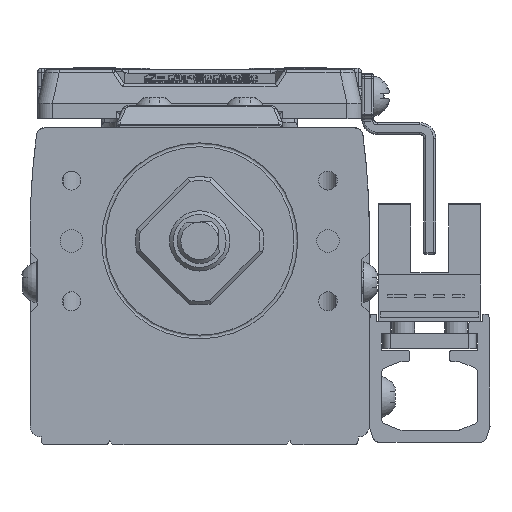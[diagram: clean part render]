
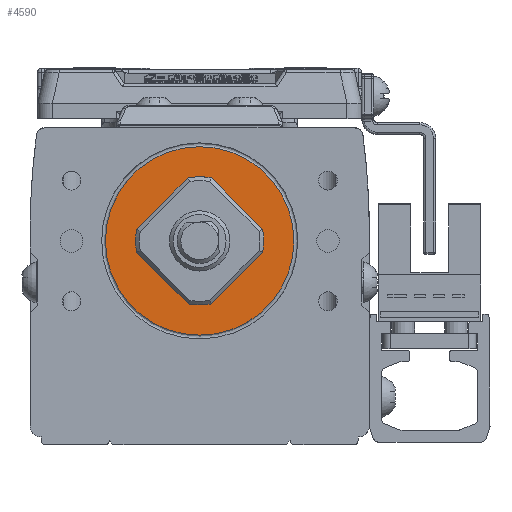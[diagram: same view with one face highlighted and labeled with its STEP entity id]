
A CAD part, left-side view. The second image highlights one B-rep face of the part: STEP entity #4590.
In plain terms, the highlighted planar face has unit normal (-1, 0, 0) as drawn and (0, 0, 1) by its records, which use the part's own axes.
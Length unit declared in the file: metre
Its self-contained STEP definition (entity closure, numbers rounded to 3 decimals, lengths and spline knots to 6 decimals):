
#4590=ADVANCED_FACE('',(#9620,#9621),#9622,.T.);
#9620=FACE_OUTER_BOUND('',#17170,.T.);
#9621=FACE_BOUND('',#17171,.T.);
#9622=PLANE('',#17172);
#17170=EDGE_LOOP('',(#29338));
#17171=EDGE_LOOP('',(#29339));
#17172=AXIS2_PLACEMENT_3D('',#29340,#29341,#29342);
#29338=ORIENTED_EDGE('',*,*,#41684,.T.);
#29339=ORIENTED_EDGE('',*,*,#39603,.F.);
#29340=CARTESIAN_POINT('',(0.000046,-0.005386,0.018));
#29341=DIRECTION('',(0.0,0.0,1.0));
#29342=DIRECTION('',(1.0,0.0,0.0));
#39603=EDGE_CURVE('',#47058,#47058,#47059,.T.);
#41684=EDGE_CURVE('',#50180,#50180,#50181,.T.);
#47058=VERTEX_POINT('',#57715);
#47059=CIRCLE('',#57716,0.004);
#50180=VERTEX_POINT('',#62380);
#50181=CIRCLE('',#62381,0.0125);
#57715=CARTESIAN_POINT('',(0.004,0.0,0.018));
#57716=AXIS2_PLACEMENT_3D('',#69078,#69079,#69080);
#62380=CARTESIAN_POINT('',(-0.0125,0.,0.018));
#62381=AXIS2_PLACEMENT_3D('',#71494,#71495,#71496);
#69078=CARTESIAN_POINT('',(0.0,0.0,0.018));
#69079=DIRECTION('',(0.0,0.0,1.0));
#69080=DIRECTION('',(-1.0,0.0,0.0));
#71494=CARTESIAN_POINT('',(0.0,0.,0.018));
#71495=DIRECTION('',(0.0,0.0,1.0));
#71496=DIRECTION('',(1.0,0.0,0.0));
